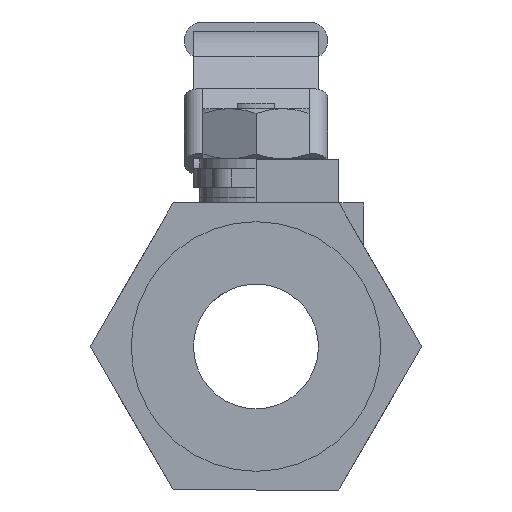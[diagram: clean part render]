
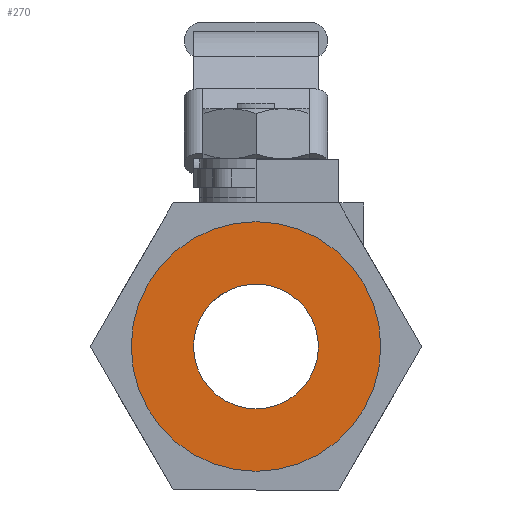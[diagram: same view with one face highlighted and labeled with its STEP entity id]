
A CAD part, left-side view. The second image highlights one B-rep face of the part: STEP entity #270.
In plain terms, the highlighted planar face has unit normal (-1, 0, 0) as drawn and (1, 0, 0) by its records, which use the part's own axes.
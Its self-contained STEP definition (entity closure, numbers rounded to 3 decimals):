
#270=ADVANCED_FACE('',(#1005,#1006),#1004,.T.);
#1004=PLANE('',#2046);
#1005=FACE_OUTER_BOUND('',#2047,.T.);
#1006=FACE_BOUND('',#2048,.T.);
#2043=CARTESIAN_POINT('',(54.,-18.569,69.));
#2044=DIRECTION('',(1.,0.,0.));
#2045=DIRECTION('',(0.,0.,-1.));
#2046=AXIS2_PLACEMENT_3D('',#2043,#2044,#2045);
#2047=EDGE_LOOP('',(#2729,#2730));
#2048=EDGE_LOOP('',(#2731,#2732));
#2729=ORIENTED_EDGE('',*,*,#3256,.F.);
#2730=ORIENTED_EDGE('',*,*,#3257,.F.);
#2731=ORIENTED_EDGE('',*,*,#3258,.F.);
#2732=ORIENTED_EDGE('',*,*,#3259,.F.);
#3256=EDGE_CURVE('',#4655,#4656,#4657,.T.);
#3257=EDGE_CURVE('',#4656,#4655,#4663,.T.);
#3258=EDGE_CURVE('',#4669,#4670,#4671,.T.);
#3259=EDGE_CURVE('',#4670,#4669,#4677,.T.);
#4655=VERTEX_POINT('',#6428);
#4656=VERTEX_POINT('',#6429);
#4657=CIRCLE('',#6433,20.);
#4663=CIRCLE('',#6437,20.);
#4669=VERTEX_POINT('',#6438);
#4670=VERTEX_POINT('',#6439);
#4671=CIRCLE('',#6443,10.);
#4677=CIRCLE('',#6447,10.);
#6428=CARTESIAN_POINT('',(54.,23.,43.));
#6429=CARTESIAN_POINT('',(54.,23.,3.));
#6430=CARTESIAN_POINT('',(54.,23.,23.));
#6431=DIRECTION('',(-1.,0.,0.));
#6432=DIRECTION('',(0.,0.,-1.));
#6433=AXIS2_PLACEMENT_3D('',#6430,#6431,#6432);
#6434=CARTESIAN_POINT('',(54.,23.,23.));
#6435=DIRECTION('',(-1.,0.,0.));
#6436=DIRECTION('',(0.,0.,-1.));
#6437=AXIS2_PLACEMENT_3D('',#6434,#6435,#6436);
#6438=CARTESIAN_POINT('',(54.,13.234,20.85));
#6439=CARTESIAN_POINT('',(54.,23.,13.));
#6440=CARTESIAN_POINT('',(54.,23.,23.));
#6441=DIRECTION('',(1.,0.,0.));
#6442=DIRECTION('',(0.,0.,-1.));
#6443=AXIS2_PLACEMENT_3D('',#6440,#6441,#6442);
#6444=CARTESIAN_POINT('',(54.,23.,23.));
#6445=DIRECTION('',(1.,0.,0.));
#6446=DIRECTION('',(0.,0.,-1.));
#6447=AXIS2_PLACEMENT_3D('',#6444,#6445,#6446);
